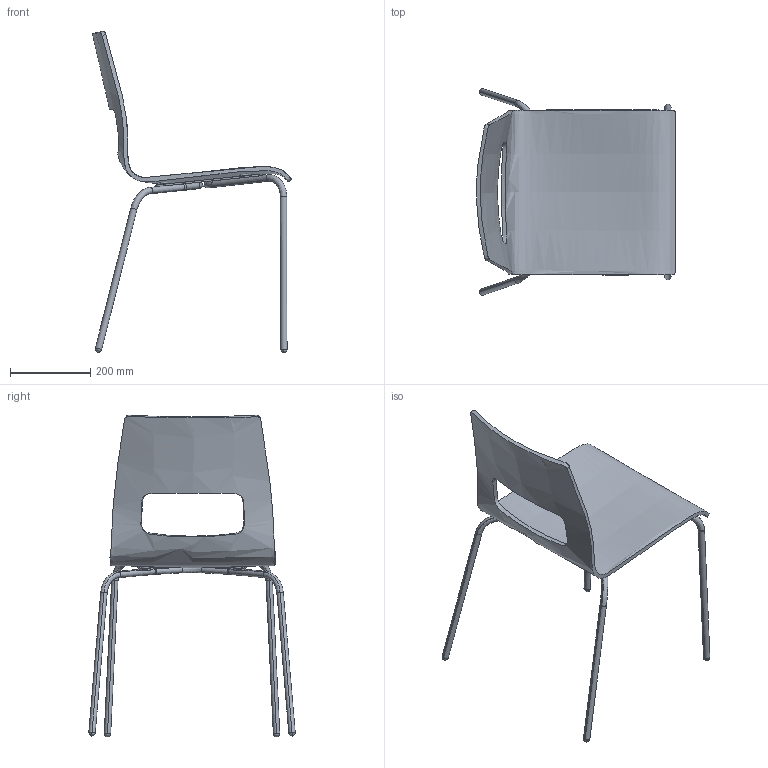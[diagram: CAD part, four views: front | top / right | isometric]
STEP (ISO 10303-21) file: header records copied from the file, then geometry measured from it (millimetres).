
FILE_DESCRIPTION(/* description */ (''),/* implementation_level */ '2;1');
FILE_NAME(/* name */ 'ANA_PM12',/* time_stamp */ '2024-12-02T10:36:59+01:00',/* author */ (''),/* organization */ (''),/* preprocessor_version */ 'ST-DEVELOPER v19.2',/* originating_system */ 'Rhino 8.12',/* authorisation */ '');
FILE_SCHEMA (('CONFIG_CONTROL_DESIGN'));
Length unit declared in the file: millimetre
Products named in the file (1): Document
Bounding box: 496.06 x 514.63 x 802.28 mm (x, y, z)
Volume: 3469499.2 mm3; surface area: 865464.6 mm2
Topology: 7 solids, 43 shells, 156 faces, 416 edges, 327 vertices
Faces by surface type: cylinder 66, bspline 58, plane 32
Entity records: 15592 total; most frequent: CARTESIAN_POINT 12308, ORIENTED_EDGE 638, DIRECTION 452, EDGE_CURVE 393, VERTEX_POINT 285, AXIS2_PLACEMENT_3D 275, EDGE_LOOP 178, TRIMMED_CURVE 173
